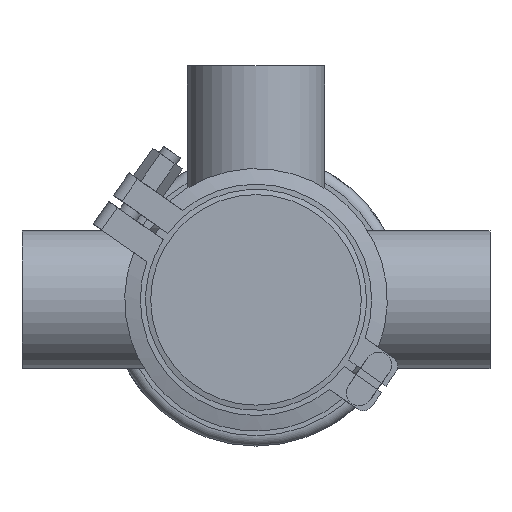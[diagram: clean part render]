
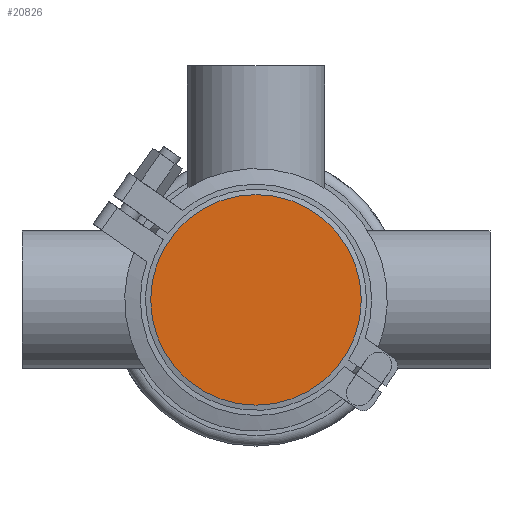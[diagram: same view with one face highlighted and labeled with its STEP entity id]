
A CAD part, front view. The second image highlights one B-rep face of the part: STEP entity #20826.
In plain terms, the highlighted planar face has unit normal (0, -1, 0).
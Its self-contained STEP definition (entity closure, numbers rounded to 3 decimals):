
#748 = DIRECTION ( 'NONE',  ( 0., -1., 0. ) ) ;
#1579 = EDGE_LOOP ( 'NONE', ( #9793 ) ) ;
#2289 = DIRECTION ( 'NONE',  ( 0., 1., 0. ) ) ;
#3668 = DIRECTION ( 'NONE',  ( 0., 0., 1. ) ) ;
#4413 = VERTEX_POINT ( 'NONE', #20994 ) ;
#5722 = DIRECTION ( 'NONE',  ( 0., 0., -1. ) ) ;
#5842 = CARTESIAN_POINT ( 'NONE',  ( -40.5, 0., 0. ) ) ;
#8614 = AXIS2_PLACEMENT_3D ( 'NONE', #13857, #2289, #3668 ) ;
#9793 = ORIENTED_EDGE ( 'NONE', *, *, #20110, .F. ) ;
#10693 = CIRCLE ( 'NONE', #8614, 40.5 ) ;
#13857 = CARTESIAN_POINT ( 'NONE',  ( 0., 0., 0. ) ) ;
#13959 = FACE_OUTER_BOUND ( 'NONE', #1579, .T. ) ;
#15557 = PLANE ( 'NONE',  #21017 ) ;
#20110 = EDGE_CURVE ( 'NONE', #4413, #4413, #10693, .T. ) ;
#20826 = ADVANCED_FACE ( 'NONE', ( #13959 ), #15557, .T. ) ;
#20994 = CARTESIAN_POINT ( 'NONE',  ( 0., 0., 40.5 ) ) ;
#21017 = AXIS2_PLACEMENT_3D ( 'NONE', #5842, #748, #5722 ) ;
